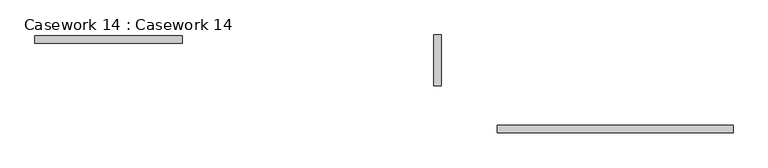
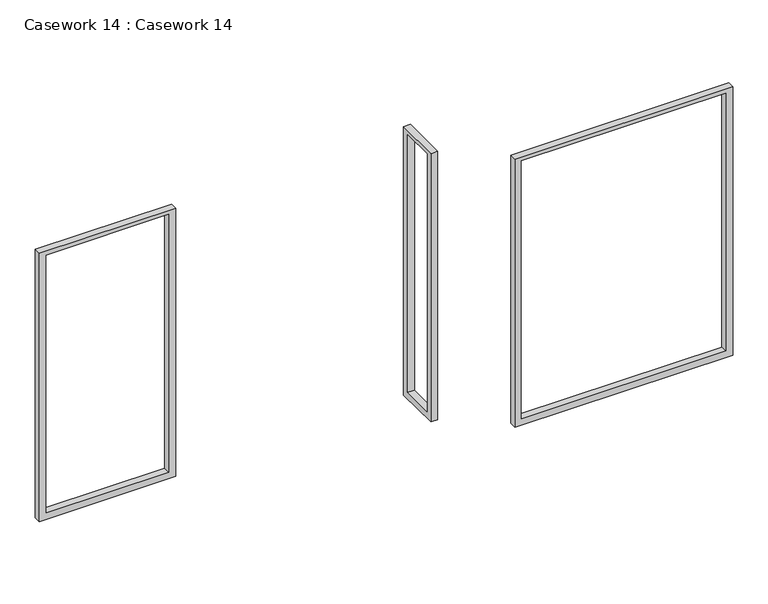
"""IFC4 building model written with IfcOpenShell, lengths in millimetres: furniture geometry, Casework 14 : Casework 14."""

from ifc_helpers import new_model, si_unit, frame, origin, place, context, project, spatial, polyline, outline, extrude, source, transform, mapped, element, save


def casework_14_casework_14_0dd781de(model_context):
    return source(origin(), model_context, "Body", "SweptSolid", [
        extrude(outline(polyline([(49.9175368, 2050.0), (49.9175368, -32.1961848), (-294.5706834, -32.1961848), (-294.5706834, 2050.0), (49.9175368, 2050.0)]), holes=[polyline([(-244.5706834, 0.0), (-0.0824633, 0.0), (-0.0824633, 2000.0), (-244.5706834, 2000.0), (-244.5706834, 0.0)])]), frame((-645.2432119, -4665.1857454, 2600.0), z_axis=(0.9999967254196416, 0.0025591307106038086, 0.0), x_axis=(0.0025591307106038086, -0.9999967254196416, 0.0)), (0.0, 0.0, 1.0), 50.0),
        extrude(outline(polyline([(2631.9400483, -3353.603071), (550.047898, -3353.603071), (550.047898, -2353.603071), (2631.9400483, -2353.603071), (2631.9400483, -3353.603071)]), holes=[polyline([(2600.047898, -3303.603071), (2600.047898, -2403.603071), (600.047898, -2403.603071), (600.047898, -3303.603071), (2600.047898, -3303.603071)])]), frame((0.0, -4426.7753259, 0.0), z_axis=(0.0, 1.0, 0.0), x_axis=(0.0, 0.0, 1.0)), (0.0, 0.0, 1.0), 50.0),
        extrude(outline(polyline([(550.0, -213.0204162), (550.0, 1386.9795838), (2631.8921503, 1386.9795838), (2631.8921503, -213.0204162), (550.0, -213.0204162)]), holes=[polyline([(600.0, -163.0204162), (2600.0, -163.0204162), (2600.0, 1336.9795838), (600.0, 1336.9795838), (600.0, -163.0204162)])]), frame((0.0, -5034.4528425, 0.0), z_axis=(0.0, 1.0, 0.0), x_axis=(0.0, 0.0, 1.0)), (0.0, 0.0, 1.0), 50.0),
    ])


if __name__ == "__main__":
    model = new_model("IFC4")
    model_context = context("Model", 3, world=origin())
    ifc_project = project(units=[si_unit("LENGTHUNIT", "METRE", prefix="MILLI")], contexts=[model_context])
    site = spatial("IfcSite", under=ifc_project)
    building = spatial("IfcBuilding", under=site)
    placement = place(None, origin())
    casework_14_casework_14_shape = casework_14_casework_14_0dd781de(model_context)
    element("IfcFurniture", 1, ObjectType="Casework 14 : Casework 14", at=placement, inside=building, context=model_context, shape_type="MappedRepresentation", body=[
        mapped(casework_14_casework_14_shape, transform((0.0, 0.0, 0.0), x_axis=(1.0, 0.0, 0.0), y_axis=(0.0, 1.0, 0.0), z_axis=(0.0, 0.0, 1.0))),
    ])
    save(model, "model.ifc")
